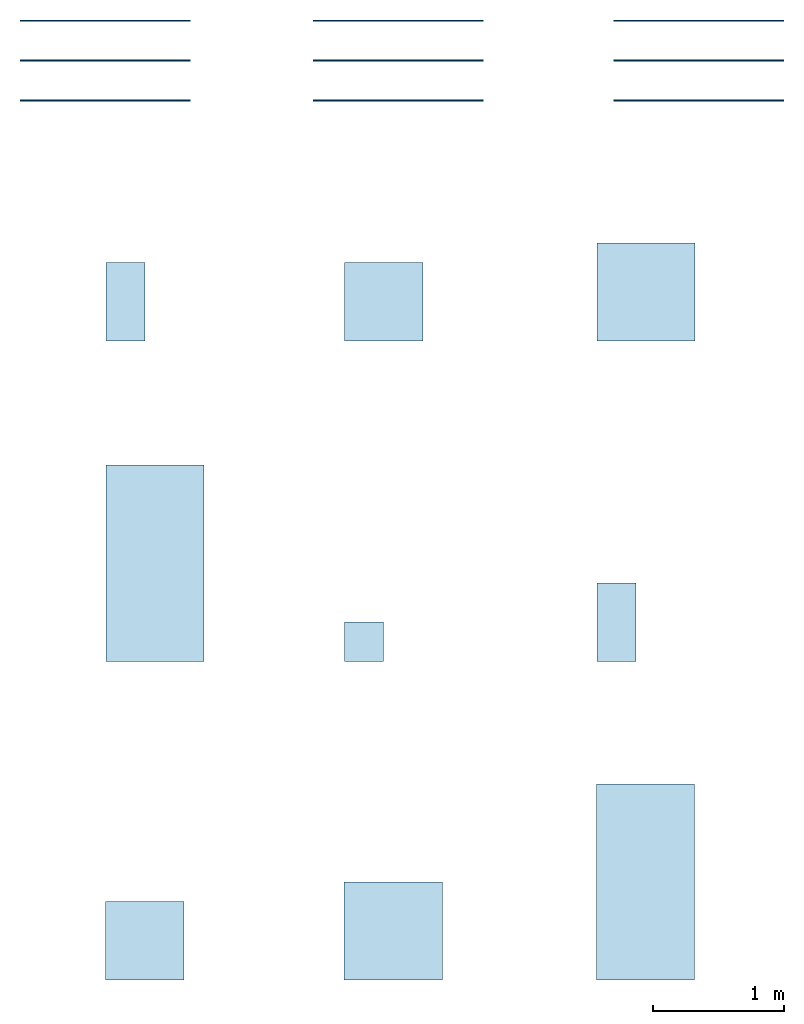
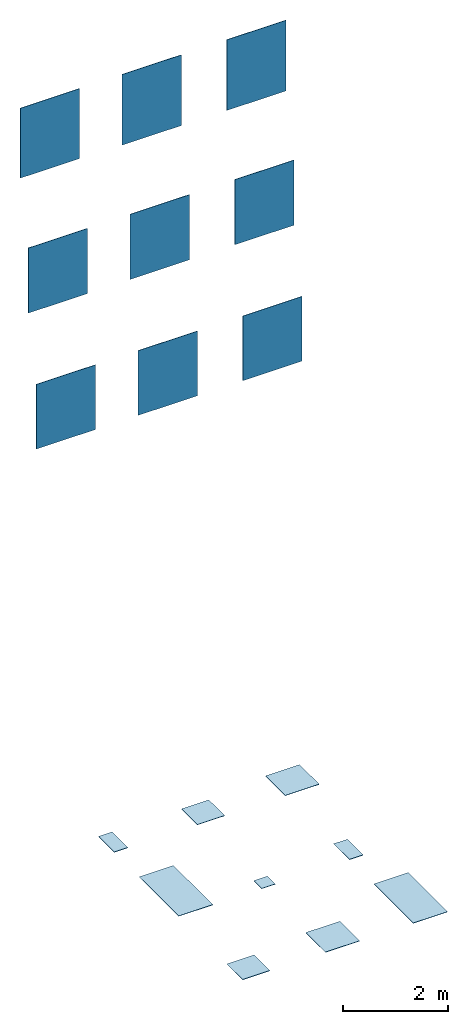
# One storey: 9 slabs, 9 walls.
"""IFC2X3 building model written with IfcOpenShell, lengths in millimetres."""

from ifc_helpers import new_model, entity, si_unit, converted_unit, derived_unit, direction, frame, frame_2d, origin, origin_2d_with_axis, place, context, subcontext, project, spatial, rectangle, extrude, material, layer, layer_set, layer_usage, type_object, element, save


model = new_model("IFC2X3")

# Units and contexts
model_context = context("Model", 3, precision=0.01, world=origin(), true_north=direction((6.12303176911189e-17, 1.0)))
body_context = subcontext(model_context, "Body", "Model", "MODEL_VIEW")
ifc_project = project(units=[si_unit("LENGTHUNIT", "METRE", prefix="MILLI"), si_unit("AREAUNIT", "SQUARE_METRE"), si_unit("VOLUMEUNIT", "CUBIC_METRE"), converted_unit("PLANEANGLEUNIT", "DEGREE", entity("IfcRatioMeasure", 0.0174532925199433), si_unit("PLANEANGLEUNIT", "RADIAN"), dimensions=[0, 0, 0, 0, 0, 0, 0]), si_unit("MASSUNIT", "GRAM", prefix="KILO"), derived_unit("MASSDENSITYUNIT", [(si_unit("MASSUNIT", "GRAM", prefix="KILO"), 1), (si_unit("LENGTHUNIT", "METRE"), -3)]), derived_unit("MOMENTOFINERTIAUNIT", [(si_unit("LENGTHUNIT", "METRE"), 4)]), si_unit("TIMEUNIT", "SECOND"), si_unit("FREQUENCYUNIT", "HERTZ"), si_unit("THERMODYNAMICTEMPERATUREUNIT", "DEGREE_CELSIUS"), derived_unit("THERMALTRANSMITTANCEUNIT", [(si_unit("MASSUNIT", "GRAM", prefix="KILO"), 1), (si_unit("THERMODYNAMICTEMPERATUREUNIT", "KELVIN"), -1), (si_unit("TIMEUNIT", "SECOND"), -3)]), derived_unit("VOLUMETRICFLOWRATEUNIT", [(si_unit("LENGTHUNIT", "METRE"), 3), (si_unit("TIMEUNIT", "SECOND"), -1)]), si_unit("ELECTRICCURRENTUNIT", "AMPERE"), si_unit("ELECTRICVOLTAGEUNIT", "VOLT"), si_unit("POWERUNIT", "WATT"), si_unit("FORCEUNIT", "NEWTON", prefix="KILO"), si_unit("ILLUMINANCEUNIT", "LUX"), si_unit("LUMINOUSFLUXUNIT", "LUMEN"), si_unit("LUMINOUSINTENSITYUNIT", "CANDELA"), derived_unit("USERDEFINED", [(si_unit("MASSUNIT", "GRAM", prefix="KILO"), -1), (si_unit("LENGTHUNIT", "METRE"), -2), (si_unit("TIMEUNIT", "SECOND"), 3), (si_unit("LUMINOUSFLUXUNIT", "LUMEN"), 1)]), derived_unit("LINEARVELOCITYUNIT", [(si_unit("LENGTHUNIT", "METRE"), 1), (si_unit("TIMEUNIT", "SECOND"), -1)]), si_unit("PRESSUREUNIT", "PASCAL"), derived_unit("USERDEFINED", [(si_unit("LENGTHUNIT", "METRE"), -2), (si_unit("MASSUNIT", "GRAM", prefix="KILO"), 1), (si_unit("TIMEUNIT", "SECOND"), -2)]), derived_unit("LINEARFORCEUNIT", [(si_unit("MASSUNIT", "GRAM", prefix="KILO"), 1), (si_unit("LENGTHUNIT", "METRE"), 1), (si_unit("TIMEUNIT", "SECOND"), -2), (si_unit("LENGTHUNIT", "METRE"), -1)]), derived_unit("PLANARFORCEUNIT", [(si_unit("MASSUNIT", "GRAM", prefix="KILO"), 1), (si_unit("LENGTHUNIT", "METRE"), 1), (si_unit("TIMEUNIT", "SECOND"), -2), (si_unit("LENGTHUNIT", "METRE"), -2)])], contexts=[model_context])

# Site, building, storey
site_placement = place(None, origin())
site = spatial("IfcSite", under=ifc_project, at=site_placement, Name="Default", CompositionType="ELEMENT")
building_placement = place(site_placement, origin())
building = spatial("IfcBuilding", under=site, at=building_placement, CompositionType="ELEMENT")
storey_placement = place(building_placement, origin())
storey = spatial("IfcBuildingStorey", under=building, at=storey_placement, Name="Level 0", CompositionType="ELEMENT", Elevation=0.0)

# Slabs
ifc_material_1 = material(Name="Prestigio Onyx-Beige-75x75 NZ83")
ifc_layer_1 = layer(ifc_material_1, 9.0)
ifc_material_2 = material(Name="<Unnamed>")
ifc_layer_2 = layer(ifc_material_2, 1.0)
ifc_layer_set_1 = layer_set([ifc_layer_1, ifc_layer_2], Name="Floor:Floor_Tiles_Refin-Prestigio_Onyx-Beige-75x75 NZ83")
ifc_layer_usage_1 = layer_usage(ifc_layer_set_1, "AXIS3", "POSITIVE", 0.0)
slab_type_1 = type_object("IfcSlabType", Name="Floor:Floor_Tiles_Refin-Prestigio_Onyx-Beige-75x75 NZ83", PredefinedType="FLOOR", material=ifc_layer_set_1)
slab_1_placement = place(storey_placement, origin())
element("IfcSlab", 1, at=slab_1_placement, inside=storey, type_object=slab_type_1, material=ifc_layer_usage_1, Name="Floor:Floor_Tiles_Refin-Prestigio_Onyx-Beige-75x75 NZ83", ObjectType="Floor:Floor_Tiles_Refin-Prestigio_Onyx-Beige-75x75 NZ83", PredefinedType="FLOOR", context=body_context, shape_type="SweptSolid", body=[
    extrude(rectangle(XDim=750.000000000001, YDim=750.000000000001, at=frame_2d((0.0, 1.08002495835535e-12), x_axis=(1.0, 0.0))), frame((10702.1861418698, 6064.46237428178, 0.0), z_axis=(0.0, 0.0, -1.0), x_axis=(0.0, 1.0, 0.0)), (0.0, 0.0, 1.0), 10.0),
])
ifc_material_3 = material(Name="Prestigio Onyx-Beige-30x60 NW01")
ifc_layer_3 = layer(ifc_material_3, 9.0)
ifc_layer_4 = layer(ifc_material_2, 1.0)
ifc_layer_set_2 = layer_set([ifc_layer_3, ifc_layer_4], Name="Floor:Floor_Tiles_Refin-Prestigio_Onyx-Beige-30x60 NW01")
ifc_layer_usage_2 = layer_usage(ifc_layer_set_2, "AXIS3", "POSITIVE", 0.0)
slab_type_2 = type_object("IfcSlabType", Name="Floor:Floor_Tiles_Refin-Prestigio_Onyx-Beige-30x60 NW01", PredefinedType="FLOOR", material=ifc_layer_set_2)
slab_2_placement = place(storey_placement, origin())
element("IfcSlab", 2, at=slab_2_placement, inside=storey, type_object=slab_type_2, material=ifc_layer_usage_2, Name="Floor:Floor_Tiles_Refin-Prestigio_Onyx-Beige-30x60 NW01", ObjectType="Floor:Floor_Tiles_Refin-Prestigio_Onyx-Beige-30x60 NW01", PredefinedType="FLOOR", context=body_context, shape_type="SweptSolid", body=[
    extrude(rectangle(XDim=600.0, YDim=300.0, at=frame_2d((0.0, -5.40012479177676e-13), x_axis=(1.0, 0.0))), frame((6724.37520617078, 5989.4623742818, 0.0), z_axis=(0.0, 0.0, -1.0), x_axis=(0.0, 1.0, 0.0)), (0.0, 0.0, 1.0), 10.0),
])
ifc_material_4 = material(Name="Prestigio Onyx-Beige-Soft-30x60 NW06")
ifc_layer_5 = layer(ifc_material_4, 9.0)
ifc_layer_6 = layer(ifc_material_2, 1.0)
ifc_layer_set_3 = layer_set([ifc_layer_5, ifc_layer_6], Name="Floor:Floor_Tiles_Refin-Prestigio_Onyx-Beige_Soft-30x60 NW06")
ifc_layer_usage_3 = layer_usage(ifc_layer_set_3, "AXIS3", "POSITIVE", 0.0)
slab_type_3 = type_object("IfcSlabType", Name="Floor:Floor_Tiles_Refin-Prestigio_Onyx-Beige_Soft-30x60 NW06", PredefinedType="FLOOR", material=ifc_layer_set_3)
slab_3_placement = place(storey_placement, origin())
element("IfcSlab", 3, at=slab_3_placement, inside=storey, type_object=slab_type_3, material=ifc_layer_usage_3, Name="Floor:Floor_Tiles_Refin-Prestigio_Onyx-Beige_Soft-30x60 NW06", ObjectType="Floor:Floor_Tiles_Refin-Prestigio_Onyx-Beige_Soft-30x60 NW06", PredefinedType="FLOOR", context=body_context, shape_type="SweptSolid", body=[
    extrude(rectangle(XDim=600.0, YDim=300.000000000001, at=origin_2d_with_axis()), frame((10477.1861418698, 3539.46237428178, 0.0), z_axis=(0.0, 0.0, -1.0), x_axis=(0.0, 1.0, 0.0)), (0.0, 0.0, 1.0), 10.0),
])
ifc_material_5 = material(Name="Prestigio Onyx-Beige-30x30 NZ91")
ifc_layer_7 = layer(ifc_material_5, 9.0)
ifc_layer_8 = layer(ifc_material_2, 1.0)
ifc_layer_set_4 = layer_set([ifc_layer_7, ifc_layer_8], Name="Floor:Floor_Tiles_Refin-Prestigio_Onyx-Beige-30x30 NZ91")
ifc_layer_usage_4 = layer_usage(ifc_layer_set_4, "AXIS3", "POSITIVE", 0.0)
slab_type_4 = type_object("IfcSlabType", Name="Floor:Floor_Tiles_Refin-Prestigio_Onyx-Beige-30x30 NZ91", PredefinedType="FLOOR", material=ifc_layer_set_4)
slab_4_placement = place(storey_placement, origin())
element("IfcSlab", 4, at=slab_4_placement, inside=storey, type_object=slab_type_4, material=ifc_layer_usage_4, Name="Floor:Floor_Tiles_Refin-Prestigio_Onyx-Beige-30x30 NZ91", ObjectType="Floor:Floor_Tiles_Refin-Prestigio_Onyx-Beige-30x30 NZ91", PredefinedType="FLOOR", context=body_context, shape_type="SweptSolid", body=[
    extrude(rectangle(XDim=300.0, YDim=300.0, at=frame_2d((0.0, 5.40012479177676e-13), x_axis=(1.0, 0.0))), frame((8547.39240545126, 3389.4623742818, 0.0), z_axis=(0.0, 0.0, -1.0), x_axis=(0.0, 1.0, 0.0)), (0.0, 0.0, 1.0), 10.0),
])
ifc_material_6 = material(Name="Prestigio Onyx-Beige-75x150 NV71")
ifc_layer_9 = layer(ifc_material_6, 9.0)
ifc_layer_10 = layer(ifc_material_2, 1.0)
ifc_layer_set_5 = layer_set([ifc_layer_9, ifc_layer_10], Name="Floor:Floor_Tiles_Refin-Prestigio_Onyx-Beige-75x150 NV71")
ifc_layer_usage_5 = layer_usage(ifc_layer_set_5, "AXIS3", "POSITIVE", 0.0)
slab_type_5 = type_object("IfcSlabType", Name="Floor:Floor_Tiles_Refin-Prestigio_Onyx-Beige-75x150 NV71", PredefinedType="FLOOR", material=ifc_layer_set_5)
slab_5_placement = place(storey_placement, origin())
element("IfcSlab", 5, at=slab_5_placement, inside=storey, type_object=slab_type_5, material=ifc_layer_usage_5, Name="Floor:Floor_Tiles_Refin-Prestigio_Onyx-Beige-75x150 NV71", ObjectType="Floor:Floor_Tiles_Refin-Prestigio_Onyx-Beige-75x150 NV71", PredefinedType="FLOOR", context=body_context, shape_type="SweptSolid", body=[
    extrude(rectangle(XDim=1500.0, YDim=750.000000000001, at=frame_2d((-5.11590769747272e-13, -1.08002495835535e-12), x_axis=(1.0, 0.0))), frame((6949.37520617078, 3989.4623742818, 0.0), z_axis=(0.0, 0.0, -1.0), x_axis=(0.0, 1.0, 0.0)), (0.0, 0.0, 1.0), 10.0),
])
ifc_material_7 = material(Name="Prestigio Onyx-Beige-Soft-60x60 NZ98")
ifc_layer_11 = layer(ifc_material_7, 9.0)
ifc_layer_12 = layer(ifc_material_2, 1.0)
ifc_layer_set_6 = layer_set([ifc_layer_11, ifc_layer_12], Name="Floor:Floor_Tiles_Refin-Prestigio_Onyx-Beige_Soft-60x60 NZ98")
ifc_layer_usage_6 = layer_usage(ifc_layer_set_6, "AXIS3", "POSITIVE", 0.0)
slab_type_6 = type_object("IfcSlabType", Name="Floor:Floor_Tiles_Refin-Prestigio_Onyx-Beige_Soft-60x60 NZ98", PredefinedType="FLOOR", material=ifc_layer_set_6)
slab_6_placement = place(storey_placement, origin())
element("IfcSlab", 6, at=slab_6_placement, inside=storey, type_object=slab_type_6, material=ifc_layer_usage_6, Name="Floor:Floor_Tiles_Refin-Prestigio_Onyx-Beige_Soft-60x60 NZ98", ObjectType="Floor:Floor_Tiles_Refin-Prestigio_Onyx-Beige_Soft-60x60 NZ98", PredefinedType="FLOOR", context=body_context, shape_type="SweptSolid", body=[
    extrude(rectangle(XDim=600.0, YDim=600.0, at=frame_2d((0.0, -1.08002495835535e-12), x_axis=(1.0, 0.0))), frame((6872.60093306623, 1103.43672349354, 0.0), z_axis=(0.0, 0.0, -1.0), x_axis=(0.0, 1.0, 0.0)), (0.0, 0.0, 1.0), 10.0),
])
ifc_material_8 = material(Name="Prestigio Onyx-Beige-60x60 NZ95")
ifc_layer_13 = layer(ifc_material_8, 9.0)
ifc_layer_14 = layer(ifc_material_2, 1.0)
ifc_layer_set_7 = layer_set([ifc_layer_13, ifc_layer_14], Name="Floor:Floor_Tiles_Refin-Prestigio_Onyx-Beige-60x60 NZ95")
ifc_layer_usage_7 = layer_usage(ifc_layer_set_7, "AXIS3", "POSITIVE", 0.0)
slab_type_7 = type_object("IfcSlabType", Name="Floor:Floor_Tiles_Refin-Prestigio_Onyx-Beige-60x60 NZ95", PredefinedType="FLOOR", material=ifc_layer_set_7)
slab_7_placement = place(storey_placement, origin())
element("IfcSlab", 7, at=slab_7_placement, inside=storey, type_object=slab_type_7, material=ifc_layer_usage_7, Name="Floor:Floor_Tiles_Refin-Prestigio_Onyx-Beige-60x60 NZ95", ObjectType="Floor:Floor_Tiles_Refin-Prestigio_Onyx-Beige-60x60 NZ95", PredefinedType="FLOOR", context=body_context, shape_type="SweptSolid", body=[
    extrude(rectangle(XDim=600.0, YDim=600.0, at=frame_2d((0.0, 1.08002495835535e-12), x_axis=(1.0, 0.0))), frame((8697.39240545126, 5988.41920639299, 0.0), z_axis=(0.0, 0.0, -1.0), x_axis=(0.0, 1.0, 0.0)), (0.0, 0.0, 1.0), 10.0),
])
ifc_material_9 = material(Name="Prestigio Onyx-Beige-Soft-75x75 NZ86")
ifc_layer_15 = layer(ifc_material_9, 9.0)
ifc_layer_16 = layer(ifc_material_2, 1.0)
ifc_layer_set_8 = layer_set([ifc_layer_15, ifc_layer_16], Name="Floor:Floor_Tiles_Refin-Prestigio_Onyx-Beige_Soft-75x75 NZ86")
ifc_layer_usage_8 = layer_usage(ifc_layer_set_8, "AXIS3", "POSITIVE", 0.0)
slab_type_8 = type_object("IfcSlabType", Name="Floor:Floor_Tiles_Refin-Prestigio_Onyx-Beige_Soft-75x75 NZ86", PredefinedType="FLOOR", material=ifc_layer_set_8)
slab_8_placement = place(storey_placement, origin())
element("IfcSlab", 8, at=slab_8_placement, inside=storey, type_object=slab_type_8, material=ifc_layer_usage_8, Name="Floor:Floor_Tiles_Refin-Prestigio_Onyx-Beige_Soft-75x75 NZ86", ObjectType="Floor:Floor_Tiles_Refin-Prestigio_Onyx-Beige_Soft-75x75 NZ86", PredefinedType="FLOOR", context=body_context, shape_type="SweptSolid", body=[
    extrude(rectangle(XDim=750.0, YDim=750.000000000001, at=origin_2d_with_axis()), frame((8770.61813234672, 1178.43672349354, 0.0), z_axis=(0.0, 0.0, -1.0), x_axis=(0.0, 1.0, 0.0)), (0.0, 0.0, 1.0), 10.0),
])
ifc_material_10 = material(Name="Prestigio Onyx-Beige-Soft-75x150 NZ80")
ifc_layer_17 = layer(ifc_material_10, 9.0)
ifc_layer_18 = layer(ifc_material_2, 1.0)
ifc_layer_set_9 = layer_set([ifc_layer_17, ifc_layer_18], Name="Floor:Floor_Tiles_Refin-Prestigio_Onyx-Beige_Soft-75x150 NZ80")
ifc_layer_usage_9 = layer_usage(ifc_layer_set_9, "AXIS3", "POSITIVE", 0.0)
slab_type_9 = type_object("IfcSlabType", Name="Floor:Floor_Tiles_Refin-Prestigio_Onyx-Beige_Soft-75x150 NZ80", PredefinedType="FLOOR", material=ifc_layer_set_9)
slab_9_placement = place(storey_placement, origin())
element("IfcSlab", 9, at=slab_9_placement, inside=storey, type_object=slab_type_9, material=ifc_layer_usage_9, Name="Floor:Floor_Tiles_Refin-Prestigio_Onyx-Beige_Soft-75x150 NZ80", ObjectType="Floor:Floor_Tiles_Refin-Prestigio_Onyx-Beige_Soft-75x150 NZ80", PredefinedType="FLOOR", context=body_context, shape_type="SweptSolid", body=[
    extrude(rectangle(XDim=1500.0, YDim=750.000000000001, at=frame_2d((0.0, 1.08002495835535e-12), x_axis=(1.0, 0.0))), frame((10700.4118687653, 1553.43672349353, 0.0), z_axis=(0.0, 0.0, -1.0), x_axis=(0.0, 1.0, 0.0)), (0.0, 0.0, 1.0), 10.0),
])

# Walls
ifc_layer_19 = layer(ifc_material_2, 1.0)
ifc_layer_20 = layer(ifc_material_8, 9.0)
ifc_layer_set_10 = layer_set([ifc_layer_19, ifc_layer_20], Name="Basic Wall:Wall_Tiles_Refin-Prestigio_Onyx-Beige-60x60 NZ95")
ifc_layer_usage_10 = layer_usage(ifc_layer_set_10, "AXIS2", "NEGATIVE", 5.0)
wall_type_1 = type_object("IfcWallType", Name="Basic Wall:Wall_Tiles_Refin-Prestigio_Onyx-Beige-60x60 NZ95", PredefinedType="STANDARD", material=ifc_layer_set_10)
wall_1_placement = place(storey_placement, frame((8157.37520617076, 8137.38386313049, 14387.6770443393)))
element("IfcWallStandardCase", 10, at=wall_1_placement, inside=storey, type_object=wall_type_1, material=ifc_layer_usage_10, Name="Basic Wall:Wall_Tiles_Refin-Prestigio_Onyx-Beige-60x60 NZ95", ObjectType="Basic Wall:Wall_Tiles_Refin-Prestigio_Onyx-Beige-60x60 NZ95", context=body_context, shape_type="SweptSolid", body=[
    extrude(rectangle(XDim=1300.0, YDim=9.99999999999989, at=frame_2d((650.0, 7.63833440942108e-14), x_axis=(-1.0, 0.0))), origin(), (0.0, 0.0, 1.0), 1641.74173522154),
])
ifc_layer_21 = layer(ifc_material_2, 1.0)
ifc_layer_22 = layer(ifc_material_1, 9.0)
ifc_layer_set_11 = layer_set([ifc_layer_21, ifc_layer_22], Name="Basic Wall:Wall_Tiles_Refin-Prestigio_Onyx-Beige-75x75 NZ83")
ifc_layer_usage_11 = layer_usage(ifc_layer_set_11, "AXIS2", "NEGATIVE", 5.0)
wall_type_2 = type_object("IfcWallType", Name="Basic Wall:Wall_Tiles_Refin-Prestigio_Onyx-Beige-75x75 NZ83", PredefinedType="STANDARD", material=ifc_layer_set_11)
wall_2_placement = place(storey_placement, frame((10457.3752061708, 8137.38386313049, 14387.6770443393)))
element("IfcWallStandardCase", 11, at=wall_2_placement, inside=storey, type_object=wall_type_2, material=ifc_layer_usage_11, Name="Basic Wall:Wall_Tiles_Refin-Prestigio_Onyx-Beige-75x75 NZ83", ObjectType="Basic Wall:Wall_Tiles_Refin-Prestigio_Onyx-Beige-75x75 NZ83", context=body_context, shape_type="SweptSolid", body=[
    extrude(rectangle(XDim=1300.0, YDim=9.99999999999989, at=frame_2d((650.0, 7.63833440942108e-14), x_axis=(-1.0, 0.0))), origin(), (0.0, 0.0, 1.0), 1641.74173522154),
])
ifc_layer_23 = layer(ifc_material_2, 1.0)
ifc_layer_24 = layer(ifc_material_3, 9.0)
ifc_layer_set_12 = layer_set([ifc_layer_23, ifc_layer_24], Name="Basic Wall:Wall_Tiles_Refin-Prestigio_Onyx-Beige-30x60 NW01")
ifc_layer_usage_12 = layer_usage(ifc_layer_set_12, "AXIS2", "NEGATIVE", 5.0)
wall_type_3 = type_object("IfcWallType", Name="Basic Wall:Wall_Tiles_Refin-Prestigio_Onyx-Beige-30x60 NW01", PredefinedType="STANDARD", material=ifc_layer_set_12)
wall_3_placement = place(storey_placement, frame((5917.37520617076, 8137.38386313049, 14403.726734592)))
element("IfcWallStandardCase", 12, at=wall_3_placement, inside=storey, type_object=wall_type_3, material=ifc_layer_usage_12, Name="Basic Wall:Wall_Tiles_Refin-Prestigio_Onyx-Beige-30x60 NW01", ObjectType="Basic Wall:Wall_Tiles_Refin-Prestigio_Onyx-Beige-30x60 NW01", context=body_context, shape_type="SweptSolid", body=[
    extrude(rectangle(XDim=1300.0, YDim=9.99999999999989, at=frame_2d((650.0, 7.63833440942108e-14), x_axis=(-1.0, 0.0))), origin(), (0.0, 0.0, 1.0), 1625.69204496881),
])
ifc_layer_25 = layer(ifc_material_2, 1.0)
ifc_layer_26 = layer(ifc_material_6, 9.0)
ifc_layer_set_13 = layer_set([ifc_layer_25, ifc_layer_26], Name="Basic Wall:Wall_Tiles_Refin-Prestigio_Onyx-Beige-75x150 NV71")
ifc_layer_usage_13 = layer_usage(ifc_layer_set_13, "AXIS2", "NEGATIVE", 5.0)
wall_type_4 = type_object("IfcWallType", Name="Basic Wall:Wall_Tiles_Refin-Prestigio_Onyx-Beige-75x150 NV71", PredefinedType="STANDARD", material=ifc_layer_set_13)
wall_4_placement = place(storey_placement, frame((5917.37520617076, 7832.38386313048, 11452.5436262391)))
element("IfcWallStandardCase", 13, at=wall_4_placement, inside=storey, type_object=wall_type_4, material=ifc_layer_usage_13, Name="Basic Wall:Wall_Tiles_Refin-Prestigio_Onyx-Beige-75x150 NV71", ObjectType="Basic Wall:Wall_Tiles_Refin-Prestigio_Onyx-Beige-75x150 NV71", context=body_context, shape_type="SweptSolid", body=[
    extrude(rectangle(XDim=1300.0, YDim=9.99999999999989, at=frame_2d((650.0, 0.0), x_axis=(-1.0, 0.0))), origin(), (0.0, 0.0, 1.0), 1513.19855655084),
])
ifc_layer_27 = layer(ifc_material_2, 1.0)
ifc_layer_28 = layer(ifc_material_5, 9.0)
ifc_layer_set_14 = layer_set([ifc_layer_27, ifc_layer_28], Name="Basic Wall:Wall_Tiles_Refin-Prestigio_Onyx-Beige-30x30 NZ91")
ifc_layer_usage_14 = layer_usage(ifc_layer_set_14, "AXIS2", "NEGATIVE", 5.0)
wall_type_5 = type_object("IfcWallType", Name="Basic Wall:Wall_Tiles_Refin-Prestigio_Onyx-Beige-30x30 NZ91", PredefinedType="STANDARD", material=ifc_layer_set_14)
wall_5_placement = place(storey_placement, frame((8157.37520617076, 7832.38386313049, 11452.5436262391)))
element("IfcWallStandardCase", 14, at=wall_5_placement, inside=storey, type_object=wall_type_5, material=ifc_layer_usage_14, Name="Basic Wall:Wall_Tiles_Refin-Prestigio_Onyx-Beige-30x30 NZ91", ObjectType="Basic Wall:Wall_Tiles_Refin-Prestigio_Onyx-Beige-30x30 NZ91", context=body_context, shape_type="SweptSolid", body=[
    extrude(rectangle(XDim=1300.0, YDim=9.99999999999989, at=frame_2d((650.0, 0.0), x_axis=(-1.0, 0.0))), origin(), (0.0, 0.0, 1.0), 1513.19855655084),
])
ifc_layer_29 = layer(ifc_material_2, 1.0)
ifc_layer_30 = layer(ifc_material_4, 9.0)
ifc_layer_set_15 = layer_set([ifc_layer_29, ifc_layer_30], Name="Basic Wall:Wall_Tiles_Refin-Prestigio_Onyx-Beige_Soft_30x60 NW06")
ifc_layer_usage_15 = layer_usage(ifc_layer_set_15, "AXIS2", "NEGATIVE", 5.0)
wall_type_6 = type_object("IfcWallType", Name="Basic Wall:Wall_Tiles_Refin-Prestigio_Onyx-Beige_Soft_30x60 NW06", PredefinedType="STANDARD", material=ifc_layer_set_15)
wall_6_placement = place(storey_placement, frame((10457.3752061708, 7832.38386313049, 11452.5436262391)))
element("IfcWallStandardCase", 15, at=wall_6_placement, inside=storey, type_object=wall_type_6, material=ifc_layer_usage_15, Name="Basic Wall:Wall_Tiles_Refin-Prestigio_Onyx-Beige_Soft_30x60 NW06", ObjectType="Basic Wall:Wall_Tiles_Refin-Prestigio_Onyx-Beige_Soft_30x60 NW06", context=body_context, shape_type="SweptSolid", body=[
    extrude(rectangle(XDim=1300.0, YDim=9.99999999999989, at=frame_2d((650.000000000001, 0.0), x_axis=(-1.0, 0.0))), origin(), (0.0, 0.0, 1.0), 1513.19855655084),
])
ifc_layer_31 = layer(ifc_material_2, 1.0)
ifc_layer_32 = layer(ifc_material_7, 9.0)
ifc_layer_set_16 = layer_set([ifc_layer_31, ifc_layer_32], Name="Basic Wall:Wall_Tiles_Refin-Prestigio_Onyx-Beige_Soft_60x60 NZ98")
ifc_layer_usage_16 = layer_usage(ifc_layer_set_16, "AXIS2", "NEGATIVE", 5.0)
wall_type_7 = type_object("IfcWallType", Name="Basic Wall:Wall_Tiles_Refin-Prestigio_Onyx-Beige_Soft_60x60 NZ98", PredefinedType="STANDARD", material=ifc_layer_set_16)
wall_7_placement = place(storey_placement, frame((5917.37520617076, 7527.38386313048, 8479.10272143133)))
element("IfcWallStandardCase", 16, at=wall_7_placement, inside=storey, type_object=wall_type_7, material=ifc_layer_usage_16, Name="Basic Wall:Wall_Tiles_Refin-Prestigio_Onyx-Beige_Soft_60x60 NZ98", ObjectType="Basic Wall:Wall_Tiles_Refin-Prestigio_Onyx-Beige_Soft_60x60 NZ98", context=body_context, shape_type="SweptSolid", body=[
    extrude(rectangle(XDim=1300.0, YDim=9.99999999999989, at=frame_2d((650.0, 0.0), x_axis=(-1.0, 0.0))), origin(), (0.0, 0.0, 1.0), 1502.57401590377),
])
ifc_layer_33 = layer(ifc_material_2, 1.0)
ifc_layer_34 = layer(ifc_material_9, 9.0)
ifc_layer_set_17 = layer_set([ifc_layer_33, ifc_layer_34], Name="Basic Wall:Wall_Tiles_Refin-Prestigio_Onyx-Beige_Soft_75x75 NZ86")
ifc_layer_usage_17 = layer_usage(ifc_layer_set_17, "AXIS2", "NEGATIVE", 5.0)
wall_type_8 = type_object("IfcWallType", Name="Basic Wall:Wall_Tiles_Refin-Prestigio_Onyx-Beige_Soft_75x75 NZ86", PredefinedType="STANDARD", material=ifc_layer_set_17)
wall_8_placement = place(storey_placement, frame((8157.37520617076, 7527.38386313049, 8479.10272143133)))
element("IfcWallStandardCase", 17, at=wall_8_placement, inside=storey, type_object=wall_type_8, material=ifc_layer_usage_17, Name="Basic Wall:Wall_Tiles_Refin-Prestigio_Onyx-Beige_Soft_75x75 NZ86", ObjectType="Basic Wall:Wall_Tiles_Refin-Prestigio_Onyx-Beige_Soft_75x75 NZ86", context=body_context, shape_type="SweptSolid", body=[
    extrude(rectangle(XDim=1300.0, YDim=9.99999999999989, at=frame_2d((650.0, 0.0), x_axis=(-1.0, 0.0))), origin(), (0.0, 0.0, 1.0), 1502.57401590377),
])
ifc_layer_35 = layer(ifc_material_2, 1.0)
ifc_layer_36 = layer(ifc_material_10, 9.0)
ifc_layer_set_18 = layer_set([ifc_layer_35, ifc_layer_36], Name="Basic Wall:Wall_Tiles_Refin-Prestigio_Onyx-Beige_Soft_75x150 NZ80")
ifc_layer_usage_18 = layer_usage(ifc_layer_set_18, "AXIS2", "NEGATIVE", 5.0)
wall_type_9 = type_object("IfcWallType", Name="Basic Wall:Wall_Tiles_Refin-Prestigio_Onyx-Beige_Soft_75x150 NZ80", PredefinedType="STANDARD", material=ifc_layer_set_18)
wall_9_placement = place(storey_placement, frame((10457.3752061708, 7527.38386313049, 8479.10272143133)))
element("IfcWallStandardCase", 18, at=wall_9_placement, inside=storey, type_object=wall_type_9, material=ifc_layer_usage_18, Name="Basic Wall:Wall_Tiles_Refin-Prestigio_Onyx-Beige_Soft_75x150 NZ80", ObjectType="Basic Wall:Wall_Tiles_Refin-Prestigio_Onyx-Beige_Soft_75x150 NZ80", context=body_context, shape_type="SweptSolid", body=[
    extrude(rectangle(XDim=1300.0, YDim=9.99999999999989, at=frame_2d((650.000000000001, 0.0), x_axis=(-1.0, 0.0))), origin(), (0.0, 0.0, 1.0), 1502.57401590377),
])

save(model, "model.ifc")
